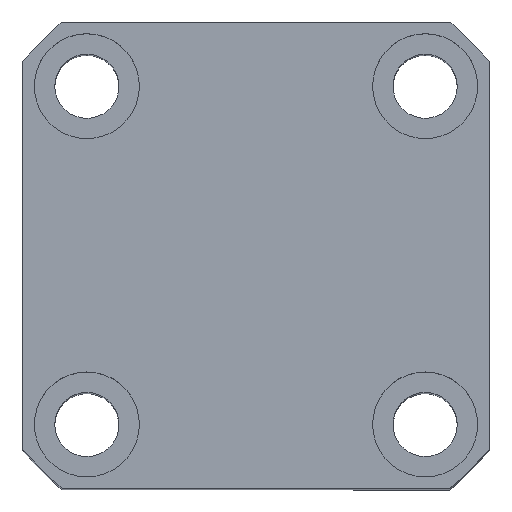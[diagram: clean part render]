
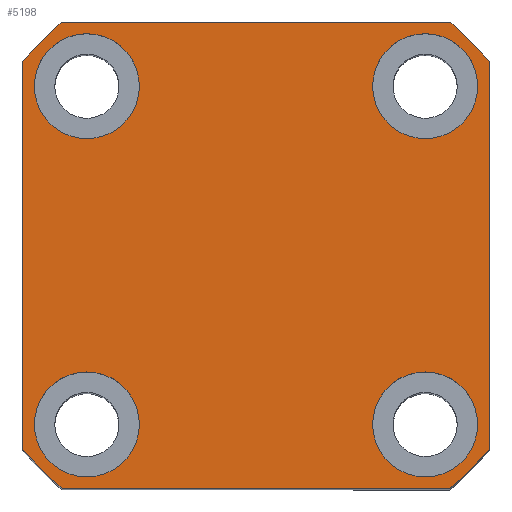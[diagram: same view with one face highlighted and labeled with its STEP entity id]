
A CAD part, top view. The second image highlights one B-rep face of the part: STEP entity #5198.
In plain terms, the highlighted planar face has unit normal (0, 0, 1).
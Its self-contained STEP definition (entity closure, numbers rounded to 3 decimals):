
#61 = DIRECTION ( 'NONE',  ( 1., 0., 0. ) ) ;
#96 = ORIENTED_EDGE ( 'NONE', *, *, #12947, .T. ) ;
#228 = FACE_BOUND ( 'NONE', #8549, .T. ) ;
#273 = EDGE_LOOP ( 'NONE', ( #6221, #12555 ) ) ;
#284 = CARTESIAN_POINT ( 'NONE',  ( 0., 0., 70. ) ) ;
#510 = DIRECTION ( 'NONE',  ( 1., 0., 0. ) ) ;
#574 = EDGE_LOOP ( 'NONE', ( #10793, #3307 ) ) ;
#906 = CARTESIAN_POINT ( 'NONE',  ( 33.226, -40., 70. ) ) ;
#988 = EDGE_CURVE ( 'NONE', #14729, #9083, #11720, .T. ) ;
#1093 = CIRCLE ( 'NONE', #9284, 9. ) ;
#1128 = VECTOR ( 'NONE', #3464, 1000. ) ;
#1230 = EDGE_CURVE ( 'NONE', #5227, #14729, #7609, .T. ) ;
#1233 = VERTEX_POINT ( 'NONE', #14442 ) ;
#1304 = DIRECTION ( 'NONE',  ( 1., 0., 0. ) ) ;
#1344 = CIRCLE ( 'NONE', #2447, 52. ) ;
#1354 = DIRECTION ( 'NONE',  ( 0., 0., 1. ) ) ;
#1568 = CARTESIAN_POINT ( 'NONE',  ( -38., -29., 70. ) ) ;
#1630 = CARTESIAN_POINT ( 'NONE',  ( -38., 29., 70. ) ) ;
#1643 = FACE_BOUND ( 'NONE', #7233, .T. ) ;
#1799 = DIRECTION ( 'NONE',  ( 0., 0., 1. ) ) ;
#2036 = EDGE_CURVE ( 'NONE', #2702, #5272, #4140, .T. ) ;
#2057 = AXIS2_PLACEMENT_3D ( 'NONE', #6260, #3890, #510 ) ;
#2140 = AXIS2_PLACEMENT_3D ( 'NONE', #6270, #7618, #8289 ) ;
#2172 = CARTESIAN_POINT ( 'NONE',  ( 33.226, 40., 70. ) ) ;
#2273 = AXIS2_PLACEMENT_3D ( 'NONE', #7005, #1354, #1304 ) ;
#2279 = CARTESIAN_POINT ( 'NONE',  ( 29., 29., 70. ) ) ;
#2447 = AXIS2_PLACEMENT_3D ( 'NONE', #8647, #1799, #12111 ) ;
#2657 = VERTEX_POINT ( 'NONE', #8125 ) ;
#2702 = VERTEX_POINT ( 'NONE', #9109 ) ;
#2739 = ORIENTED_EDGE ( 'NONE', *, *, #988, .T. ) ;
#2833 = CARTESIAN_POINT ( 'NONE',  ( 0., 0., 70. ) ) ;
#2976 = VERTEX_POINT ( 'NONE', #6504 ) ;
#3072 = FACE_BOUND ( 'NONE', #273, .T. ) ;
#3093 = DIRECTION ( 'NONE',  ( 0., 0., 1. ) ) ;
#3246 = EDGE_LOOP ( 'NONE', ( #4305, #2739, #96, #7952, #11839, #4259, #12394, #4810 ) ) ;
#3307 = ORIENTED_EDGE ( 'NONE', *, *, #5662, .F. ) ;
#3464 = DIRECTION ( 'NONE',  ( 1., 0., 0. ) ) ;
#3500 = CIRCLE ( 'NONE', #11738, 9. ) ;
#3510 = EDGE_CURVE ( 'NONE', #5184, #5227, #7536, .T. ) ;
#3540 = DIRECTION ( 'NONE',  ( 1., 0., 0. ) ) ;
#3553 = CARTESIAN_POINT ( 'NONE',  ( 29., -29., 70. ) ) ;
#3890 = DIRECTION ( 'NONE',  ( 0., 0., 1. ) ) ;
#3904 = AXIS2_PLACEMENT_3D ( 'NONE', #2279, #6995, #7971 ) ;
#3978 = DIRECTION ( 'NONE',  ( 0., 0., 1. ) ) ;
#4140 = LINE ( 'NONE', #5700, #1128 ) ;
#4259 = ORIENTED_EDGE ( 'NONE', *, *, #2036, .T. ) ;
#4305 = ORIENTED_EDGE ( 'NONE', *, *, #1230, .T. ) ;
#4327 = VERTEX_POINT ( 'NONE', #10635 ) ;
#4682 = DIRECTION ( 'NONE',  ( 1., 0., 0. ) ) ;
#4719 = VERTEX_POINT ( 'NONE', #6671 ) ;
#4810 = ORIENTED_EDGE ( 'NONE', *, *, #3510, .T. ) ;
#4943 = VECTOR ( 'NONE', #10127, 1000. ) ;
#5184 = VERTEX_POINT ( 'NONE', #8677 ) ;
#5198 = ADVANCED_FACE ( 'NONE', ( #228, #5912, #1643, #3072, #13048 ), #14344, .T. ) ;
#5217 = DIRECTION ( 'NONE',  ( 0., 0., 1. ) ) ;
#5227 = VERTEX_POINT ( 'NONE', #7714 ) ;
#5268 = DIRECTION ( 'NONE',  ( 1., 0., 0. ) ) ;
#5272 = VERTEX_POINT ( 'NONE', #906 ) ;
#5289 = EDGE_CURVE ( 'NONE', #5272, #5184, #11977, .T. ) ;
#5334 = VERTEX_POINT ( 'NONE', #1568 ) ;
#5376 = VECTOR ( 'NONE', #12303, 1000. ) ;
#5386 = CARTESIAN_POINT ( 'NONE',  ( -33.226, 40., 70. ) ) ;
#5419 = CARTESIAN_POINT ( 'NONE',  ( 0., 0., 70. ) ) ;
#5493 = EDGE_CURVE ( 'NONE', #12811, #11338, #11798, .T. ) ;
#5662 = EDGE_CURVE ( 'NONE', #5334, #2976, #12863, .T. ) ;
#5700 = CARTESIAN_POINT ( 'NONE',  ( -33.226, -40., 70. ) ) ;
#5781 = VECTOR ( 'NONE', #12591, 1000. ) ;
#5840 = AXIS2_PLACEMENT_3D ( 'NONE', #2833, #3978, #6213 ) ;
#5912 = FACE_BOUND ( 'NONE', #574, .T. ) ;
#6213 = DIRECTION ( 'NONE',  ( 1., 0., 0. ) ) ;
#6221 = ORIENTED_EDGE ( 'NONE', *, *, #9415, .F. ) ;
#6260 = CARTESIAN_POINT ( 'NONE',  ( -29., -29., 70. ) ) ;
#6270 = CARTESIAN_POINT ( 'NONE',  ( 0., 0., 70. ) ) ;
#6338 = DIRECTION ( 'NONE',  ( 0., 0., 1. ) ) ;
#6424 = EDGE_CURVE ( 'NONE', #2976, #5334, #1093, .T. ) ;
#6504 = CARTESIAN_POINT ( 'NONE',  ( -20., -29., 70. ) ) ;
#6671 = CARTESIAN_POINT ( 'NONE',  ( -40., 33.226, 70. ) ) ;
#6859 = CARTESIAN_POINT ( 'NONE',  ( 29., -29., 70. ) ) ;
#6995 = DIRECTION ( 'NONE',  ( 0., 0., 1. ) ) ;
#7005 = CARTESIAN_POINT ( 'NONE',  ( 29., 29., 70. ) ) ;
#7169 = ORIENTED_EDGE ( 'NONE', *, *, #10442, .F. ) ;
#7233 = EDGE_LOOP ( 'NONE', ( #7355, #12062 ) ) ;
#7355 = ORIENTED_EDGE ( 'NONE', *, *, #5493, .F. ) ;
#7427 = CIRCLE ( 'NONE', #2273, 9. ) ;
#7536 = LINE ( 'NONE', #14545, #5376 ) ;
#7541 = EDGE_CURVE ( 'NONE', #10255, #2702, #8104, .T. ) ;
#7609 = CIRCLE ( 'NONE', #2140, 52. ) ;
#7618 = DIRECTION ( 'NONE',  ( 0., 0., 1. ) ) ;
#7714 = CARTESIAN_POINT ( 'NONE',  ( 40., 33.226, 70. ) ) ;
#7938 = EDGE_CURVE ( 'NONE', #11338, #12811, #8640, .T. ) ;
#7952 = ORIENTED_EDGE ( 'NONE', *, *, #13090, .T. ) ;
#7971 = DIRECTION ( 'NONE',  ( 1., 0., 0. ) ) ;
#8029 = DIRECTION ( 'NONE',  ( 0., 0., 1. ) ) ;
#8104 = CIRCLE ( 'NONE', #5840, 52. ) ;
#8125 = CARTESIAN_POINT ( 'NONE',  ( 20., 29., 70. ) ) ;
#8183 = AXIS2_PLACEMENT_3D ( 'NONE', #5419, #5217, #11039 ) ;
#8289 = DIRECTION ( 'NONE',  ( 1., 0., 0. ) ) ;
#8549 = EDGE_LOOP ( 'NONE', ( #12794, #7169 ) ) ;
#8640 = CIRCLE ( 'NONE', #12717, 9. ) ;
#8647 = CARTESIAN_POINT ( 'NONE',  ( 0., 0., 70. ) ) ;
#8677 = CARTESIAN_POINT ( 'NONE',  ( 40., -33.226, 70. ) ) ;
#9083 = VERTEX_POINT ( 'NONE', #5386 ) ;
#9109 = CARTESIAN_POINT ( 'NONE',  ( -33.226, -40., 70. ) ) ;
#9284 = AXIS2_PLACEMENT_3D ( 'NONE', #14411, #6338, #9875 ) ;
#9363 = LINE ( 'NONE', #12546, #5781 ) ;
#9415 = EDGE_CURVE ( 'NONE', #4327, #2657, #10829, .T. ) ;
#9516 = AXIS2_PLACEMENT_3D ( 'NONE', #284, #13855, #3540 ) ;
#9771 = CARTESIAN_POINT ( 'NONE',  ( -29., 29., 70. ) ) ;
#9875 = DIRECTION ( 'NONE',  ( 1., 0., 0. ) ) ;
#10015 = CARTESIAN_POINT ( 'NONE',  ( 38., -29., 70. ) ) ;
#10127 = DIRECTION ( 'NONE',  ( -1., 0., 0. ) ) ;
#10178 = CARTESIAN_POINT ( 'NONE',  ( -40., -33.226, 70. ) ) ;
#10255 = VERTEX_POINT ( 'NONE', #10178 ) ;
#10442 = EDGE_CURVE ( 'NONE', #1233, #11485, #3500, .T. ) ;
#10635 = CARTESIAN_POINT ( 'NONE',  ( 38., 29., 70. ) ) ;
#10710 = EDGE_CURVE ( 'NONE', #2657, #4327, #7427, .T. ) ;
#10793 = ORIENTED_EDGE ( 'NONE', *, *, #6424, .F. ) ;
#10829 = CIRCLE ( 'NONE', #3904, 9. ) ;
#11039 = DIRECTION ( 'NONE',  ( 1., 0., 0. ) ) ;
#11338 = VERTEX_POINT ( 'NONE', #1630 ) ;
#11485 = VERTEX_POINT ( 'NONE', #10015 ) ;
#11524 = DIRECTION ( 'NONE',  ( 0., 0., 1. ) ) ;
#11720 = LINE ( 'NONE', #14582, #4943 ) ;
#11738 = AXIS2_PLACEMENT_3D ( 'NONE', #3553, #11524, #4682 ) ;
#11798 = CIRCLE ( 'NONE', #13791, 9. ) ;
#11839 = ORIENTED_EDGE ( 'NONE', *, *, #7541, .T. ) ;
#11977 = CIRCLE ( 'NONE', #9516, 52. ) ;
#12059 = DIRECTION ( 'NONE',  ( 1., 0., 0. ) ) ;
#12062 = ORIENTED_EDGE ( 'NONE', *, *, #7938, .F. ) ;
#12111 = DIRECTION ( 'NONE',  ( 1., 0., 0. ) ) ;
#12241 = CARTESIAN_POINT ( 'NONE',  ( -29., 29., 70. ) ) ;
#12303 = DIRECTION ( 'NONE',  ( 0., 1., 0. ) ) ;
#12394 = ORIENTED_EDGE ( 'NONE', *, *, #5289, .T. ) ;
#12546 = CARTESIAN_POINT ( 'NONE',  ( -40., 33.226, 70. ) ) ;
#12555 = ORIENTED_EDGE ( 'NONE', *, *, #10710, .F. ) ;
#12591 = DIRECTION ( 'NONE',  ( 0., -1., 0. ) ) ;
#12717 = AXIS2_PLACEMENT_3D ( 'NONE', #12241, #14542, #5268 ) ;
#12794 = ORIENTED_EDGE ( 'NONE', *, *, #13690, .F. ) ;
#12811 = VERTEX_POINT ( 'NONE', #14317 ) ;
#12863 = CIRCLE ( 'NONE', #2057, 9. ) ;
#12930 = CIRCLE ( 'NONE', #13663, 9. ) ;
#12947 = EDGE_CURVE ( 'NONE', #9083, #4719, #1344, .T. ) ;
#13048 = FACE_OUTER_BOUND ( 'NONE', #3246, .T. ) ;
#13090 = EDGE_CURVE ( 'NONE', #4719, #10255, #9363, .T. ) ;
#13663 = AXIS2_PLACEMENT_3D ( 'NONE', #6859, #8029, #61 ) ;
#13690 = EDGE_CURVE ( 'NONE', #11485, #1233, #12930, .T. ) ;
#13791 = AXIS2_PLACEMENT_3D ( 'NONE', #9771, #3093, #12059 ) ;
#13855 = DIRECTION ( 'NONE',  ( 0., 0., 1. ) ) ;
#14317 = CARTESIAN_POINT ( 'NONE',  ( -20., 29., 70. ) ) ;
#14344 = PLANE ( 'NONE',  #8183 ) ;
#14411 = CARTESIAN_POINT ( 'NONE',  ( -29., -29., 70. ) ) ;
#14442 = CARTESIAN_POINT ( 'NONE',  ( 20., -29., 70. ) ) ;
#14542 = DIRECTION ( 'NONE',  ( 0., 0., 1. ) ) ;
#14545 = CARTESIAN_POINT ( 'NONE',  ( 40., 33.226, 70. ) ) ;
#14582 = CARTESIAN_POINT ( 'NONE',  ( -33.226, 40., 70. ) ) ;
#14729 = VERTEX_POINT ( 'NONE', #2172 ) ;
